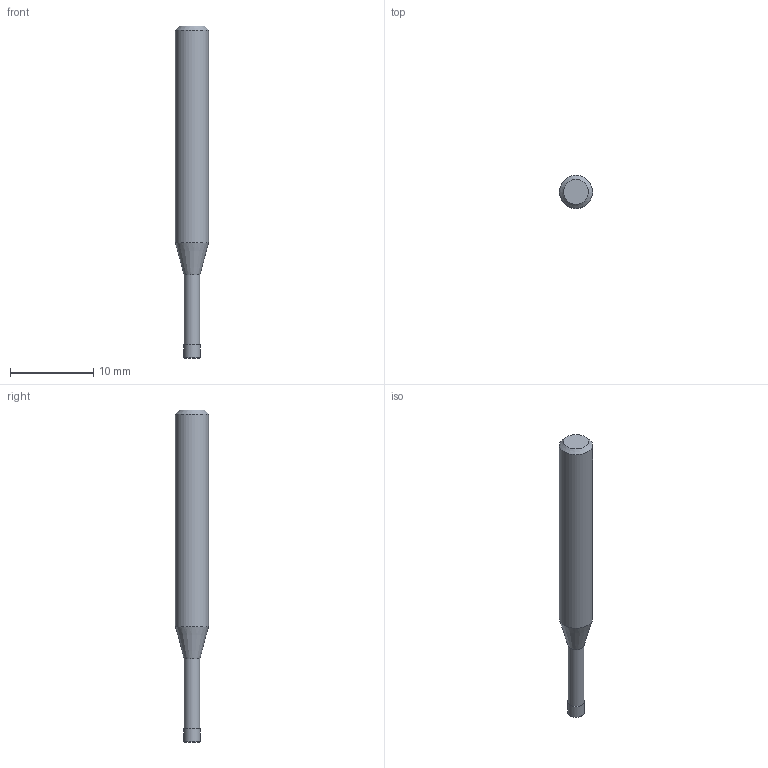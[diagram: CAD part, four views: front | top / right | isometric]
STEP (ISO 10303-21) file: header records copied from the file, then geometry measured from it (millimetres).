
FILE_DESCRIPTION((''),'2;1');
FILE_NAME('C:\Users\nsx150\AppData\Local\Temp\Mastercam 2021\80JYEHYUML\TEMP.step','2022-03-29T14:37:12',(''),(''),'STEP Write','Mastercam 2021 ... CNC Software, Inc.','');
FILE_SCHEMA(('AUTOMOTIVE_DESIGN'));
Length unit declared in the file: millimetre
Products named in the file (1): None
Bounding box: 4 x 4 x 40 mm (x, y, z)
Volume: 383.5 mm3; surface area: 443.5 mm2
Topology: 2 solids, 2 shells, 10 faces, 14 edges, 8 vertices
Faces by surface type: plane 4, cylinder 3, cone 2, torus 1
Full cylindrical faces by diameter (mm): 1.91 x1, 2 x1, 4 x1
Entity records: 232 total; most frequent: DIRECTION 40, CARTESIAN_POINT 28, AXIS2_PLACEMENT_3D 20, ORIENTED_EDGE 16, EDGE_LOOP 16, STYLED_ITEM 13, ADVANCED_FACE 10, FACE_BOUND 10
